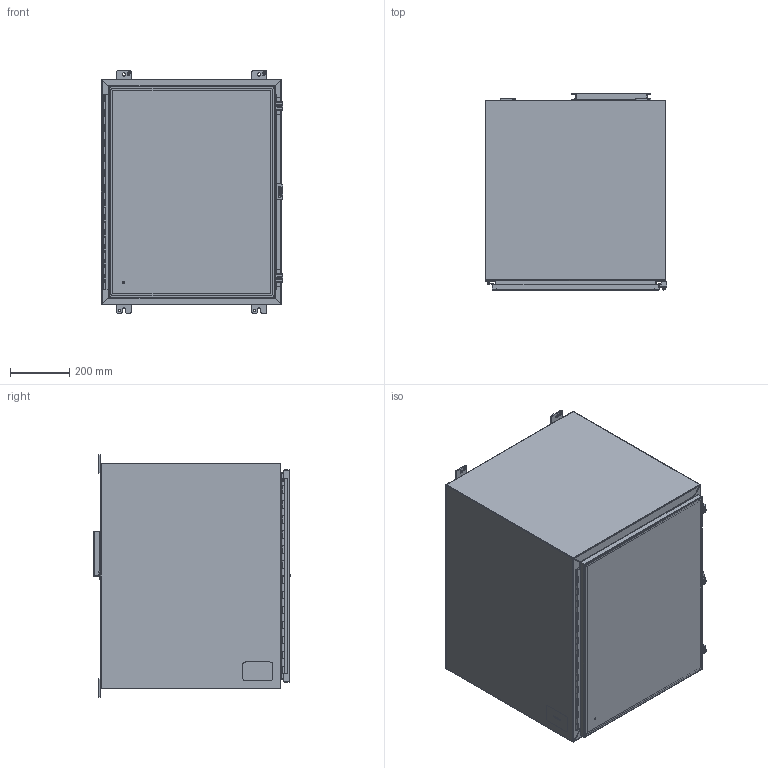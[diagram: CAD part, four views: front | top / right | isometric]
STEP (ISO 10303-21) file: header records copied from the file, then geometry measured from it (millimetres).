
FILE_DESCRIPTION(/* description */ ('Unknown'),/* implementation_level */ '2;1');
FILE_NAME(/* name */ '1418K24LP',/* time_stamp */ '2026-02-20T16:32:52-05:00',/* author */ ('Unknown'),/* organization */ ('Unknown'),/* preprocessor_version */ 'ST-DEVELOPER v18.104',/* originating_system */ 'Solid Edge',/* authorisation */ 'Unknown');
FILE_SCHEMA (('AUTOMOTIVE_DESIGN {1 0 10303 214 3 1 1}'));
Length unit declared in the file: millimetre
Products named in the file (31): 1418K24LP; STD26094; KIT90518; WAF25059; NTS166105; LAB30005; KIT90256; NTS165305; NTS16535; STD21878; COM42780; HNG10620-26B; COM40153-1; COM71780-17; COM40153-2; COM70219_oa_0; HNG10620-26C; PNT11078; COM48484; FET07710; HNG10620-26P; AKT90223; SPR20265; SCC19011; WAF25035; COM42667; BUL10020; QLB30109; PKT99; COM48533
Assembly tree (42 placements, depth 3):
  1418K24LP
    STD26094  x4
    KIT90518
      WAF25059
      NTS166105
      LAB30005
    KIT90256
      LAB30005
      NTS165305
      NTS16535
    STD21878
    COM42780  x2
    HNG10620-26B
    COM40153-1
    COM71780-17
      COM40153-2
      COM70219_oa_0
      HNG10620-26C
      COM71780-17
      STD21878
      PNT11078
    COM48484
    FET07710  x4
    HNG10620-26P
    AKT90223  x2
      SPR20265
      SCC19011
      WAF25035
      COM42667
    BUL10020
    QLB30109
    PKT99
    COM48533  x2
    PNT11078
Bounding box: 612.77 x 663.58 x 819.15 mm (x, y, z)
Volume: 5412107.5 mm3; surface area: 5868804.9 mm2
Topology: 36 solids, 37 shells, 1213 faces, 3143 edges, 2038 vertices
Faces by surface type: plane 794, cylinder 314, bspline 57, cone 26, torus 20, sphere 2
Full cylindrical faces by diameter (mm): 3.175 x1, 4.763 x1, 4.976 x1, 5.41 x2, 6.198 x2, 6.35 x3, 6.731 x2, 7.137 x2, 7.805 x1, 7.938 x4, 8.382 x4, 9.525 x4, 9.906 x2, 11.113 x4, 11.303 x1, 12.7 x2, 16.51 x4, 25.4 x1, 88.9 x1
Entity records: 29720 total; most frequent: CARTESIAN_POINT 7971, ORIENTED_EDGE 4364, DIRECTION 4113, EDGE_CURVE 2182, LINE 1463, VECTOR 1463, VERTEX_POINT 1429, AXIS2_PLACEMENT_3D 1325
